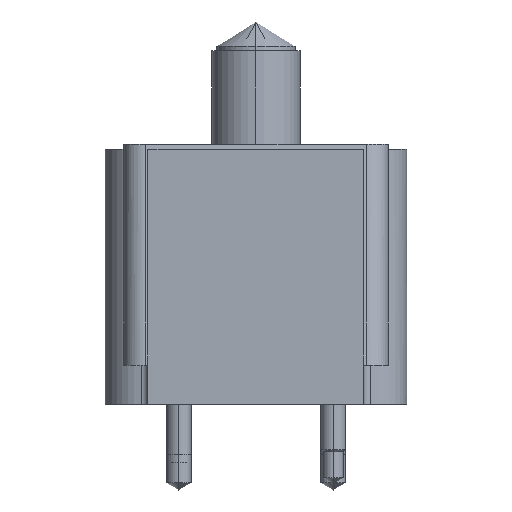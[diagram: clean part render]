
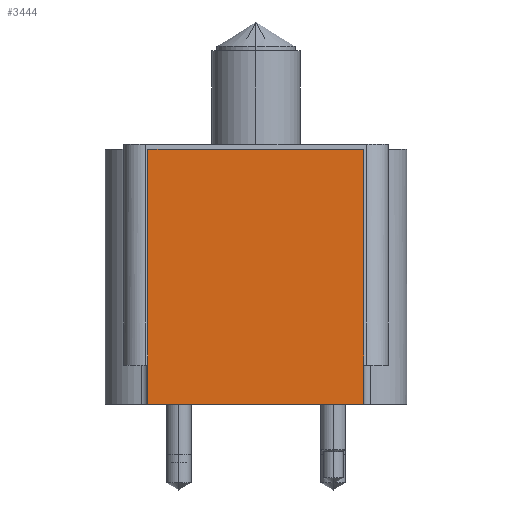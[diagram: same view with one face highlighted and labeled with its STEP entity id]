
A CAD part, left-side view. The second image highlights one B-rep face of the part: STEP entity #3444.
In plain terms, the highlighted planar face has unit normal (-1, 0, 0).
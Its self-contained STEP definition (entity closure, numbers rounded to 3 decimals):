
#3405=CARTESIAN_POINT('',(-84.201,-34.988,82.55));
#3406=VERTEX_POINT('',#3405);
#3407=CARTESIAN_POINT('',(-84.201,-34.988,0.0));
#3408=VERTEX_POINT('',#3407);
#3409=CARTESIAN_POINT('',(-84.201,-34.988,0.0));
#3410=DIRECTION('',(0.0,0.0,-1.0));
#3411=VECTOR('',#3410,1.0);
#3412=LINE('',#3409,#3411);
#3413=EDGE_CURVE('',#3406,#3408,#3412,.T.);
#3414=ORIENTED_EDGE('',*,*,#3413,.F.);
#3415=CARTESIAN_POINT('',(-84.201,34.988,82.55));
#3416=VERTEX_POINT('',#3415);
#3417=CARTESIAN_POINT('',(-84.201,0.0,82.55));
#3418=DIRECTION('',(0.0,1.0,0.0));
#3419=VECTOR('',#3418,1.0);
#3420=LINE('',#3417,#3419);
#3421=EDGE_CURVE('',#3406,#3416,#3420,.T.);
#3422=ORIENTED_EDGE('',*,*,#3421,.T.);
#3423=CARTESIAN_POINT('',(-84.201,34.988,0.0));
#3424=VERTEX_POINT('',#3423);
#3425=CARTESIAN_POINT('',(-84.201,34.988,0.0));
#3426=DIRECTION('',(0.0,0.0,1.0));
#3427=VECTOR('',#3426,1.0);
#3428=LINE('',#3425,#3427);
#3429=EDGE_CURVE('',#3424,#3416,#3428,.T.);
#3430=ORIENTED_EDGE('',*,*,#3429,.F.);
#3431=CARTESIAN_POINT('',(-84.201,0.0,0.0));
#3432=DIRECTION('',(0.0,-1.0,0.0));
#3433=VECTOR('',#3432,1.0);
#3434=LINE('',#3431,#3433);
#3435=EDGE_CURVE('',#3424,#3408,#3434,.T.);
#3436=ORIENTED_EDGE('',*,*,#3435,.T.);
#3437=EDGE_LOOP('',(#3414,#3422,#3430,#3436));
#3438=FACE_OUTER_BOUND('',#3437,.T.);
#3439=CARTESIAN_POINT('',(-84.201,0.0,0.0));
#3440=DIRECTION('',(-1.0,0.0,-0.0));
#3441=DIRECTION('',(-0.0,0.0,1.0));
#3442=AXIS2_PLACEMENT_3D('',#3439,#3440,#3441);
#3443=PLANE('',#3442);
#3444=ADVANCED_FACE('',(#3438),#3443,.T.);
